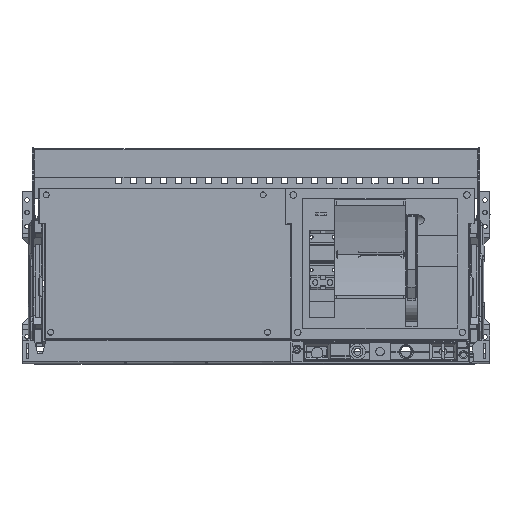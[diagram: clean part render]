
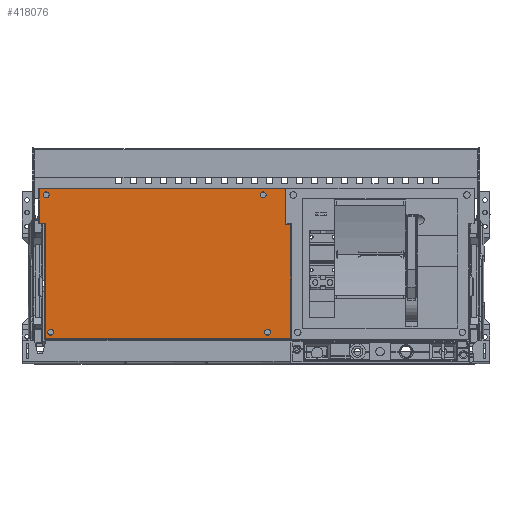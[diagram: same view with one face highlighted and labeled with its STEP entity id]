
A CAD part, top view. The second image highlights one B-rep face of the part: STEP entity #418076.
In plain terms, the highlighted planar face has unit normal (0, 0, 1).
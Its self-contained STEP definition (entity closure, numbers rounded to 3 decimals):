
#417241=DIRECTION(' ',(0.,0.,1.));
#417246=CARTESIAN_POINT(' ',(-676.5,50.5,-3.));
#417251=DIRECTION(' ',(1.,0.,0.));
#417256=AXIS2_PLACEMENT_3D(' ',#417246,#417241,#417251);
#417261=PLANE('',#417256);
#417266=CARTESIAN_POINT(' ',(-665.5,50.5,-3.));
#417271=DIRECTION(' ',(1.,0.,0.));
#417276=VECTOR(' ',#417271,1.);
#417281=LINE('',#417266,#417276);
#417286=CARTESIAN_POINT(' ',(-665.5,50.5,-3.));
#417287=VERTEX_POINT(' ',#417286);
#417291=CARTESIAN_POINT(' ',(-177.5,50.5,-3.));
#417292=VERTEX_POINT(' ',#417291);
#417296=EDGE_CURVE(' ',#417287,#417292,#417281,.T.);
#417301=ORIENTED_EDGE(' ',*,*,#417296,.T.);
#417306=CARTESIAN_POINT(' ',(-177.5,50.5,-3.));
#417311=DIRECTION(' ',(0.,1.,0.));
#417316=VECTOR(' ',#417311,1.);
#417321=LINE('',#417306,#417316);
#417326=CARTESIAN_POINT(' ',(-177.5,276.5,-3.));
#417327=VERTEX_POINT(' ',#417326);
#417331=EDGE_CURVE(' ',#417292,#417327,#417321,.T.);
#417336=ORIENTED_EDGE(' ',*,*,#417331,.T.);
#417341=CARTESIAN_POINT(' ',(-177.5,276.5,-3.));
#417346=DIRECTION(' ',(-1.,0.,0.));
#417351=VECTOR(' ',#417346,1.);
#417356=LINE('',#417341,#417351);
#417361=CARTESIAN_POINT(' ',(-188.5,276.5,-3.));
#417362=VERTEX_POINT(' ',#417361);
#417366=EDGE_CURVE(' ',#417327,#417362,#417356,.T.);
#417371=ORIENTED_EDGE(' ',*,*,#417366,.T.);
#417376=CARTESIAN_POINT(' ',(-188.5,276.5,-3.));
#417381=DIRECTION(' ',(0.,1.,0.));
#417386=VECTOR(' ',#417381,1.);
#417391=LINE('',#417376,#417386);
#417396=CARTESIAN_POINT(' ',(-188.5,347.5,-3.));
#417397=VERTEX_POINT(' ',#417396);
#417401=EDGE_CURVE(' ',#417362,#417397,#417391,.T.);
#417406=ORIENTED_EDGE(' ',*,*,#417401,.T.);
#417411=CARTESIAN_POINT(' ',(-188.5,347.5,-3.));
#417416=DIRECTION(' ',(-1.,0.,0.));
#417421=VECTOR(' ',#417416,1.);
#417426=LINE('',#417411,#417421);
#417431=CARTESIAN_POINT(' ',(-676.5,347.5,-3.));
#417432=VERTEX_POINT(' ',#417431);
#417436=EDGE_CURVE(' ',#417397,#417432,#417426,.T.);
#417441=ORIENTED_EDGE(' ',*,*,#417436,.T.);
#417446=CARTESIAN_POINT(' ',(-676.5,347.5,-3.));
#417451=DIRECTION(' ',(0.,-1.,0.));
#417456=VECTOR(' ',#417451,1.);
#417461=LINE('',#417446,#417456);
#417466=CARTESIAN_POINT(' ',(-676.5,279.5,-3.));
#417467=VERTEX_POINT(' ',#417466);
#417471=EDGE_CURVE(' ',#417432,#417467,#417461,.T.);
#417476=ORIENTED_EDGE(' ',*,*,#417471,.T.);
#417481=CARTESIAN_POINT(' ',(-676.5,279.5,-3.));
#417486=DIRECTION(' ',(1.,0.,0.));
#417491=VECTOR(' ',#417486,1.);
#417496=LINE('',#417481,#417491);
#417501=CARTESIAN_POINT(' ',(-665.5,279.5,-3.));
#417502=VERTEX_POINT(' ',#417501);
#417506=EDGE_CURVE(' ',#417467,#417502,#417496,.T.);
#417511=ORIENTED_EDGE(' ',*,*,#417506,.T.);
#417516=CARTESIAN_POINT(' ',(-665.5,279.5,-3.));
#417521=DIRECTION(' ',(0.,-1.,0.));
#417526=VECTOR(' ',#417521,1.);
#417531=LINE('',#417516,#417526);
#417536=EDGE_CURVE(' ',#417502,#417287,#417531,.T.);
#417541=ORIENTED_EDGE(' ',*,*,#417536,.T.);
#417546=EDGE_LOOP(' ',(#417301,#417336,#417371,#417406,#417441,#417476,#417511,#417541));
#417551=FACE_OUTER_BOUND(' ',#417546,.T.);
#417556=CARTESIAN_POINT(' ',(-232.5,335.5,-3.));
#417561=DIRECTION(' ',(0.,0.,-1.));
#417566=DIRECTION(' ',(-1.,0.,0.));
#417571=AXIS2_PLACEMENT_3D(' ',#417556,#417561,#417566);
#417576=CIRCLE('',#417571,6.);
#417581=CARTESIAN_POINT(' ',(-238.5,335.5,-3.));
#417582=VERTEX_POINT(' ',#417581);
#417586=CARTESIAN_POINT(' ',(-226.5,335.5,-3.));
#417587=VERTEX_POINT(' ',#417586);
#417591=EDGE_CURVE(' ',#417582,#417587,#417576,.T.);
#417596=ORIENTED_EDGE(' ',*,*,#417591,.T.);
#417601=CARTESIAN_POINT(' ',(-232.5,335.5,-3.));
#417606=DIRECTION(' ',(-0.,0.,-1.));
#417611=DIRECTION(' ',(1.,0.,0.));
#417616=AXIS2_PLACEMENT_3D(' ',#417601,#417606,#417611);
#417621=CIRCLE('',#417616,6.);
#417626=CARTESIAN_POINT(' ',(-232.5,329.5,-3.));
#417627=VERTEX_POINT(' ',#417626);
#417631=EDGE_CURVE(' ',#417587,#417627,#417621,.T.);
#417636=ORIENTED_EDGE(' ',*,*,#417631,.T.);
#417641=CARTESIAN_POINT(' ',(-232.5,335.5,-3.));
#417646=DIRECTION(' ',(0.,0.,-1.));
#417651=DIRECTION(' ',(0.,-1.,0.));
#417656=AXIS2_PLACEMENT_3D(' ',#417641,#417646,#417651);
#417661=CIRCLE('',#417656,6.);
#417666=EDGE_CURVE(' ',#417627,#417582,#417661,.T.);
#417671=ORIENTED_EDGE(' ',*,*,#417666,.T.);
#417676=EDGE_LOOP(' ',(#417596,#417636,#417671));
#417681=FACE_BOUND(' ',#417676,.T.);
#417686=CARTESIAN_POINT(' ',(-654.5,62.5,-3.));
#417691=DIRECTION(' ',(0.,-0.,-1.));
#417696=DIRECTION(' ',(-1.,0.,0.));
#417701=AXIS2_PLACEMENT_3D(' ',#417686,#417691,#417696);
#417706=CIRCLE('',#417701,6.);
#417711=CARTESIAN_POINT(' ',(-660.5,62.5,-3.));
#417712=VERTEX_POINT(' ',#417711);
#417716=CARTESIAN_POINT(' ',(-648.5,62.5,-3.));
#417717=VERTEX_POINT(' ',#417716);
#417721=EDGE_CURVE(' ',#417712,#417717,#417706,.T.);
#417726=ORIENTED_EDGE(' ',*,*,#417721,.T.);
#417731=CARTESIAN_POINT(' ',(-654.5,62.5,-3.));
#417736=DIRECTION(' ',(0.,0.,-1.));
#417741=DIRECTION(' ',(1.,0.,0.));
#417746=AXIS2_PLACEMENT_3D(' ',#417731,#417736,#417741);
#417751=CIRCLE('',#417746,6.);
#417756=CARTESIAN_POINT(' ',(-654.5,56.5,-3.));
#417757=VERTEX_POINT(' ',#417756);
#417761=EDGE_CURVE(' ',#417717,#417757,#417751,.T.);
#417766=ORIENTED_EDGE(' ',*,*,#417761,.T.);
#417771=CARTESIAN_POINT(' ',(-654.5,62.5,-3.));
#417776=DIRECTION(' ',(0.,0.,-1.));
#417781=DIRECTION(' ',(0.,-1.,0.));
#417786=AXIS2_PLACEMENT_3D(' ',#417771,#417776,#417781);
#417791=CIRCLE('',#417786,6.);
#417796=EDGE_CURVE(' ',#417757,#417712,#417791,.T.);
#417801=ORIENTED_EDGE(' ',*,*,#417796,.T.);
#417806=EDGE_LOOP(' ',(#417726,#417766,#417801));
#417811=FACE_BOUND(' ',#417806,.T.);
#417816=CARTESIAN_POINT(' ',(-223.5,62.5,-3.));
#417821=DIRECTION(' ',(0.,0.,-1.));
#417826=DIRECTION(' ',(-1.,0.,0.));
#417831=AXIS2_PLACEMENT_3D(' ',#417816,#417821,#417826);
#417836=CIRCLE('',#417831,6.);
#417841=CARTESIAN_POINT(' ',(-229.5,62.5,-3.));
#417842=VERTEX_POINT(' ',#417841);
#417846=CARTESIAN_POINT(' ',(-217.5,62.5,-3.));
#417847=VERTEX_POINT(' ',#417846);
#417851=EDGE_CURVE(' ',#417842,#417847,#417836,.T.);
#417856=ORIENTED_EDGE(' ',*,*,#417851,.T.);
#417861=CARTESIAN_POINT(' ',(-223.5,62.5,-3.));
#417866=DIRECTION(' ',(0.,0.,-1.));
#417871=DIRECTION(' ',(1.,0.,0.));
#417876=AXIS2_PLACEMENT_3D(' ',#417861,#417866,#417871);
#417881=CIRCLE('',#417876,6.);
#417886=CARTESIAN_POINT(' ',(-223.5,56.5,-3.));
#417887=VERTEX_POINT(' ',#417886);
#417891=EDGE_CURVE(' ',#417847,#417887,#417881,.T.);
#417896=ORIENTED_EDGE(' ',*,*,#417891,.T.);
#417901=CARTESIAN_POINT(' ',(-223.5,62.5,-3.));
#417906=DIRECTION(' ',(0.,0.,-1.));
#417911=DIRECTION(' ',(0.,-1.,0.));
#417916=AXIS2_PLACEMENT_3D(' ',#417901,#417906,#417911);
#417921=CIRCLE('',#417916,6.);
#417926=EDGE_CURVE(' ',#417887,#417842,#417921,.T.);
#417931=ORIENTED_EDGE(' ',*,*,#417926,.T.);
#417936=EDGE_LOOP(' ',(#417856,#417896,#417931));
#417941=FACE_BOUND(' ',#417936,.T.);
#417946=CARTESIAN_POINT(' ',(-663.5,335.5,-3.));
#417951=DIRECTION(' ',(0.,-0.,-1.));
#417956=DIRECTION(' ',(-1.,0.,0.));
#417961=AXIS2_PLACEMENT_3D(' ',#417946,#417951,#417956);
#417966=CIRCLE('',#417961,6.);
#417971=CARTESIAN_POINT(' ',(-669.5,335.5,-3.));
#417972=VERTEX_POINT(' ',#417971);
#417976=CARTESIAN_POINT(' ',(-657.5,335.5,-3.));
#417977=VERTEX_POINT(' ',#417976);
#417981=EDGE_CURVE(' ',#417972,#417977,#417966,.T.);
#417986=ORIENTED_EDGE(' ',*,*,#417981,.T.);
#417991=CARTESIAN_POINT(' ',(-663.5,335.5,-3.));
#417996=DIRECTION(' ',(0.,0.,-1.));
#418001=DIRECTION(' ',(1.,0.,0.));
#418006=AXIS2_PLACEMENT_3D(' ',#417991,#417996,#418001);
#418011=CIRCLE('',#418006,6.);
#418016=CARTESIAN_POINT(' ',(-663.5,329.5,-3.));
#418017=VERTEX_POINT(' ',#418016);
#418021=EDGE_CURVE(' ',#417977,#418017,#418011,.T.);
#418026=ORIENTED_EDGE(' ',*,*,#418021,.T.);
#418031=CARTESIAN_POINT(' ',(-663.5,335.5,-3.));
#418036=DIRECTION(' ',(0.,0.,-1.));
#418041=DIRECTION(' ',(0.,-1.,0.));
#418046=AXIS2_PLACEMENT_3D(' ',#418031,#418036,#418041);
#418051=CIRCLE('',#418046,6.);
#418056=EDGE_CURVE(' ',#418017,#417972,#418051,.T.);
#418061=ORIENTED_EDGE(' ',*,*,#418056,.T.);
#418066=EDGE_LOOP(' ',(#417986,#418026,#418061));
#418071=FACE_BOUND(' ',#418066,.T.);
#418076=ADVANCED_FACE('',(#417551,#417681,#417811,#417941,#418071),#417261,.T.);
